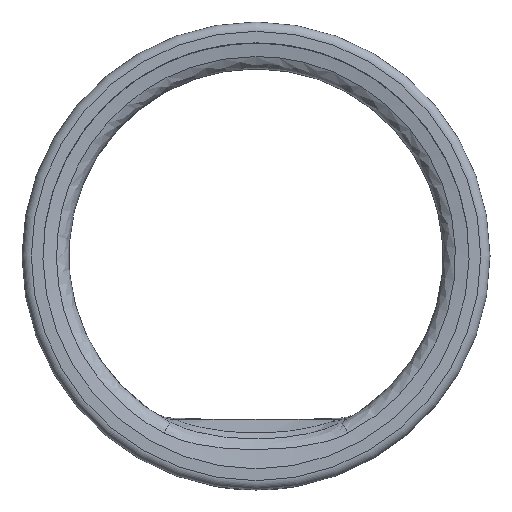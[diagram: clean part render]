
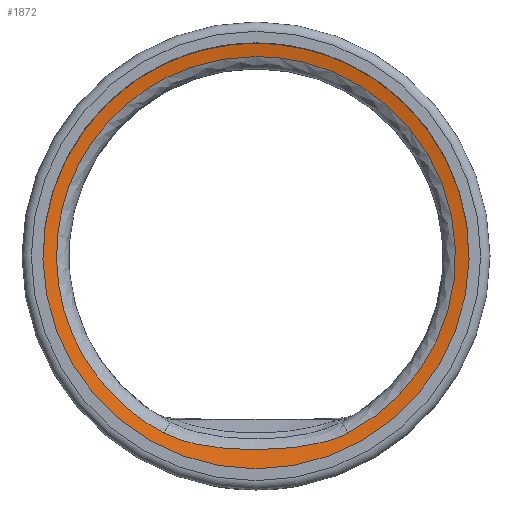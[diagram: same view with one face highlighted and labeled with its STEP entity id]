
A CAD part, left-side view. The second image highlights one B-rep face of the part: STEP entity #1872.
In plain terms, the highlighted conical face has half-angle 80.146 degrees and reference radius 10.37 mm.
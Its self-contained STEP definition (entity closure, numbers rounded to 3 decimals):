
#68=LINE('',#2561,#153);
#153=VECTOR('',#2091,10.37);
#238=CONICAL_SURFACE('',#2004,10.37,1.399);
#243=FACE_OUTER_BOUND('',#356,.T.);
#356=EDGE_LOOP('',(#1203,#1204,#1205,#1206,#1207,#1208,#1209,#1210));
#477=B_SPLINE_CURVE_WITH_KNOTS('',3,(#2371,#2372,#2373,#2374,#2375,#2376,
#2377,#2378,#2379),.UNSPECIFIED.,.F.,.F.,(4,1,2,2,4),(-1.02,
-0.754,-0.577,-0.308,0.),
 .UNSPECIFIED.);
#480=B_SPLINE_CURVE_WITH_KNOTS('',3,(#2452,#2453,#2454,#2455,#2456,#2457,
#2458),.UNSPECIFIED.,.F.,.F.,(4,1,1,1,4),(0.,0.824,
1.649,2.473,2.885),.UNSPECIFIED.);
#481=B_SPLINE_CURVE_WITH_KNOTS('',3,(#2459,#2460,#2461,#2462,#2463,#2464,
#2465),.UNSPECIFIED.,.F.,.F.,(4,1,1,1,4),(2.885,3.297,
4.121,4.946,5.77),.UNSPECIFIED.);
#649=CIRCLE('',#2005,11.42);
#650=CIRCLE('',#2006,11.42);
#651=CIRCLE('',#2007,11.42);
#687=VERTEX_POINT('',#2368);
#688=VERTEX_POINT('',#2370);
#690=VERTEX_POINT('',#2451);
#697=VERTEX_POINT('',#2560);
#698=VERTEX_POINT('',#2562);
#699=VERTEX_POINT('',#2564);
#886=EDGE_CURVE('',#687,#688,#477,.T.);
#890=EDGE_CURVE('',#688,#690,#480,.T.);
#891=EDGE_CURVE('',#690,#687,#481,.T.);
#899=EDGE_CURVE('',#690,#697,#68,.T.);
#900=EDGE_CURVE('',#697,#698,#649,.F.);
#901=EDGE_CURVE('',#699,#698,#650,.T.);
#902=EDGE_CURVE('',#699,#697,#651,.F.);
#1203=ORIENTED_EDGE('',*,*,#886,.F.);
#1204=ORIENTED_EDGE('',*,*,#891,.F.);
#1205=ORIENTED_EDGE('',*,*,#899,.T.);
#1206=ORIENTED_EDGE('',*,*,#900,.T.);
#1207=ORIENTED_EDGE('',*,*,#901,.F.);
#1208=ORIENTED_EDGE('',*,*,#902,.T.);
#1209=ORIENTED_EDGE('',*,*,#899,.F.);
#1210=ORIENTED_EDGE('',*,*,#890,.F.);
#1872=ADVANCED_FACE('',(#243),#238,.F.);
#2004=AXIS2_PLACEMENT_3D('',#2559,#2089,#2090);
#2005=AXIS2_PLACEMENT_3D('',#2563,#2092,#2093);
#2006=AXIS2_PLACEMENT_3D('',#2565,#2094,#2095);
#2007=AXIS2_PLACEMENT_3D('',#2566,#2096,#2097);
#2089=DIRECTION('center_axis',(-1.,0.,0.));
#2090=DIRECTION('ref_axis',(0.,0.,-1.));
#2091=DIRECTION('',(-0.171,0.,0.985));
#2092=DIRECTION('center_axis',(1.,0.,0.));
#2093=DIRECTION('ref_axis',(0.,0.,1.));
#2094=DIRECTION('center_axis',(1.,0.,0.));
#2095=DIRECTION('ref_axis',(0.,0.,-1.));
#2096=DIRECTION('center_axis',(1.,0.,0.));
#2097=DIRECTION('ref_axis',(0.,0.,1.));
#2368=CARTESIAN_POINT('',(-3.926,4.915,-9.497));
#2370=CARTESIAN_POINT('',(-3.926,-4.915,-9.496));
#2371=CARTESIAN_POINT('Ctrl Pts',(-3.926,4.915,-9.497));
#2372=CARTESIAN_POINT('Ctrl Pts',(-3.926,4.137,-9.899));
#2373=CARTESIAN_POINT('Ctrl Pts',(-3.893,2.693,-10.231));
#2374=CARTESIAN_POINT('Ctrl Pts',(-3.877,1.243,-10.351));
#2375=CARTESIAN_POINT('Ctrl Pts',(-3.869,-0.227,
-10.397));
#2376=CARTESIAN_POINT('Ctrl Pts',(-3.875,-1.117,-10.374));
#2377=CARTESIAN_POINT('Ctrl Pts',(-3.9,-2.998,-10.155));
#2378=CARTESIAN_POINT('Ctrl Pts',(-3.926,-4.016,-9.962));
#2379=CARTESIAN_POINT('Ctrl Pts',(-3.926,-4.915,-9.496));
#2451=CARTESIAN_POINT('',(-3.921,0.,10.688));
#2452=CARTESIAN_POINT('Ctrl Pts',(-3.926,-4.915,-9.496));
#2453=CARTESIAN_POINT('Ctrl Pts',(-3.926,-7.324,-8.249));
#2454=CARTESIAN_POINT('Ctrl Pts',(-3.925,-11.14,-3.843));
#2455=CARTESIAN_POINT('Ctrl Pts',(-3.922,-10.712,4.901));
#2456=CARTESIAN_POINT('Ctrl Pts',(-3.921,-5.433,9.936));
#2457=CARTESIAN_POINT('Ctrl Pts',(-3.921,-1.358,10.689));
#2458=CARTESIAN_POINT('Ctrl Pts',(-3.921,0.,
10.688));
#2459=CARTESIAN_POINT('Ctrl Pts',(-3.921,0.,
10.688));
#2460=CARTESIAN_POINT('Ctrl Pts',(-3.921,1.358,10.687));
#2461=CARTESIAN_POINT('Ctrl Pts',(-3.921,5.432,9.93));
#2462=CARTESIAN_POINT('Ctrl Pts',(-3.922,10.719,4.905));
#2463=CARTESIAN_POINT('Ctrl Pts',(-3.925,11.135,-3.844));
#2464=CARTESIAN_POINT('Ctrl Pts',(-3.926,7.324,-8.25));
#2465=CARTESIAN_POINT('Ctrl Pts',(-3.926,4.915,-9.497));
#2559=CARTESIAN_POINT('Origin',(-3.868,0.,
0.016));
#2560=CARTESIAN_POINT('',(-4.047,0.,11.42));
#2561=CARTESIAN_POINT('',(-3.868,0.,10.386));
#2562=CARTESIAN_POINT('',(-4.05,11.419,-0.179));
#2563=CARTESIAN_POINT('Origin',(-4.05,0.,
0.));
#2564=CARTESIAN_POINT('',(-4.05,-11.419,-0.179));
#2565=CARTESIAN_POINT('Origin',(-4.05,0.,0.016));
#2566=CARTESIAN_POINT('Origin',(-4.05,0.,
0.));
